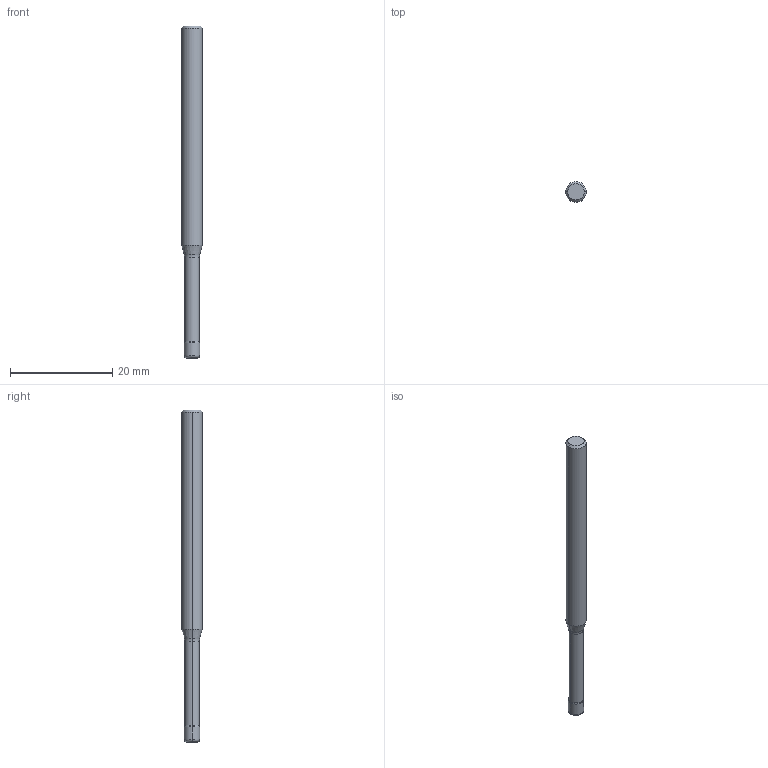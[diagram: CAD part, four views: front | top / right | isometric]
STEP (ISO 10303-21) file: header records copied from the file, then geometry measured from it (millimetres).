
FILE_DESCRIPTION (( 'STEP AP214' ), '1' );
FILE_NAME ('560.304.75_3D-model.step', '2022-02-18T15:55:13', ( '' ), ( '' ), 'SwSTEP 2.0', 'SolidWorks 2020', '' );
FILE_SCHEMA (( 'AUTOMOTIVE_DESIGN' ));
Length unit declared in the file: millimetre
Products named in the file (3): CUT-3D^Baugr54; NOCUT-3D^Baugr54; 560.304.75_3D-model
Assembly tree (2 placements, depth 2):
  560.304.75_3D-model
    CUT-3D^Baugr54
    NOCUT-3D^Baugr54
Bounding box: 4 x 4 x 65 mm (x, y, z)
Volume: 691.2 mm3; surface area: 774.4 mm2
Topology: 2 solids, 2 shells, 20 faces, 36 edges, 20 vertices
Faces by surface type: cylinder 6, cone 6, torus 4, plane 4
Entity records: 610 total; most frequent: DIRECTION 116, CARTESIAN_POINT 84, ORIENTED_EDGE 72, AXIS2_PLACEMENT_3D 52, EDGE_CURVE 36, CIRCLE 24, FACE_OUTER_BOUND 20, ADVANCED_FACE 20
